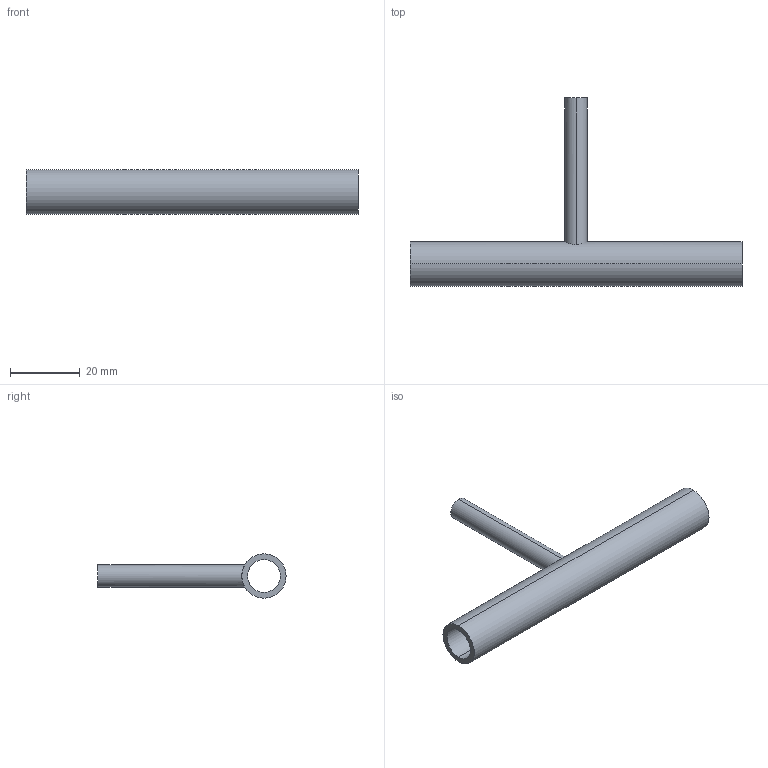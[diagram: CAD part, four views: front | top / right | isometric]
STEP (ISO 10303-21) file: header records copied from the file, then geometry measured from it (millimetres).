
FILE_DESCRIPTION (( 'STEP AP214' ), '1' );
FILE_NAME ('TE7RWWW6L.5x.25-...STEP', '2016-05-24T03:58:24', ( 'eran' ), ( '' ), 'SwSTEP 2.0', 'SolidWorks 2016', '' );
FILE_SCHEMA (( 'AUTOMOTIVE_DESIGN' ));
Length unit declared in the file: millimetre
Products named in the file (1): TE7RWWW6L.5x.25-..
Bounding box: 95.2 x 53.95 x 12.7 mm (x, y, z)
Volume: 6059.8 mm3; surface area: 8141.1 mm2
Topology: 1 solids, 1 shells, 11 faces, 24 edges, 16 vertices
Faces by surface type: cylinder 8, plane 3
Entity records: 460 total; most frequent: CARTESIAN_POINT 168, DIRECTION 56, ORIENTED_EDGE 48, EDGE_CURVE 24, AXIS2_PLACEMENT_3D 24, VERTEX_POINT 16, EDGE_LOOP 16, CIRCLE 12
